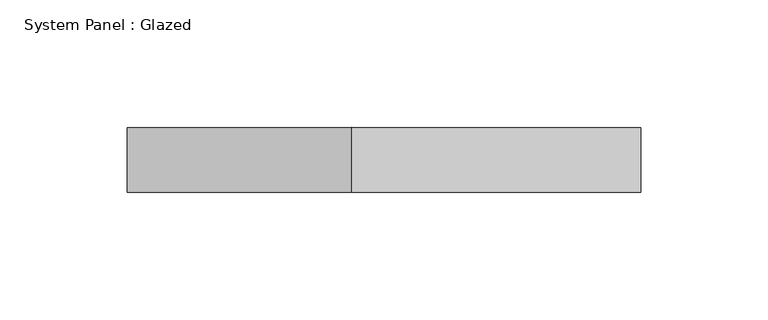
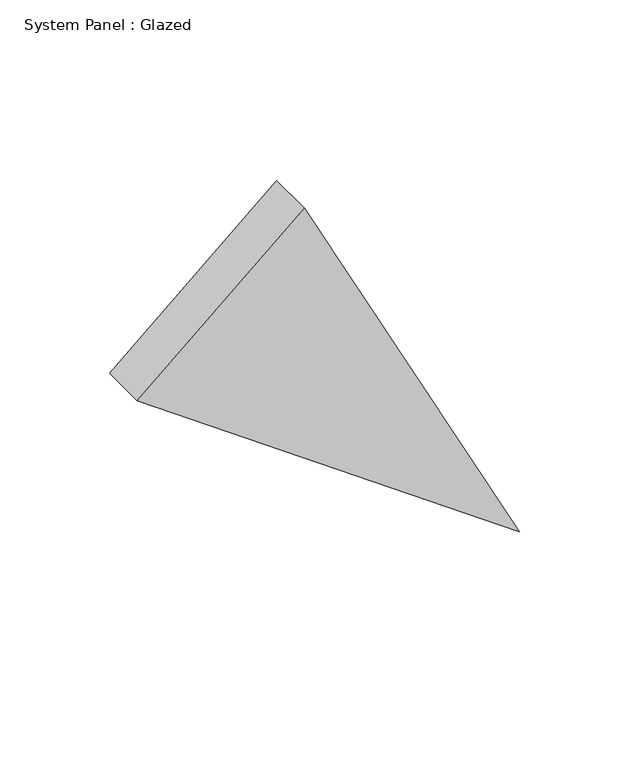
"""IFC4 building model written with IfcOpenShell, lengths in millimetres: plate geometry, System Panel : Glazed."""

import ifcopenshell
import ifcopenshell.guid

model = None  # the IFC model being written
_history = None  # IfcOwnerHistory: only IFC2X3 demands one
_inside = {}  # id of a spatial element -> (the spatial element, [elements in it])
_under = {}  # id of a project, library or spatial element -> (it, [spatial elements below it])
_declared = {}  # id of a project -> (the project, [libraries it declares])
_typed = {}  # id of a type object -> (the type object, [elements of that type])
_made_of = {}  # id of a material, layer set ... -> (it, [elements and type objects made of it])


def new_model(schema):
    """Start an empty IFC model of exactly this schema.

    Asked for "IFC4X3", IfcOpenShell would pick the latest addendum, in which some entities
    have other attributes; the version numbers below select the first issue.
    IFC2X3 requires an IfcOwnerHistory on every rooted entity: one is made here for all.
    """
    global model, _history
    if schema == "IFC4X3":
        model = ifcopenshell.file(schema_version=(4, 3, 0, 0))
    else:
        model = ifcopenshell.file(schema=schema)
    _inside.clear()
    _under.clear()
    _declared.clear()
    _typed.clear()
    _made_of.clear()
    _history = None
    if model.schema == "IFC2X3":
        org = make("IfcOrganization", Name="unknown")
        user = make(
            "IfcPersonAndOrganization",
            ThePerson=make("IfcPerson", FamilyName="unknown"),
            TheOrganization=org,
        )
        app = make(
            "IfcApplication",
            ApplicationDeveloper=org,
            Version="unknown",
            ApplicationFullName="unknown",
            ApplicationIdentifier="unknown",
        )
        _history = make(
            "IfcOwnerHistory",
            OwningUser=user,
            OwningApplication=app,
            ChangeAction="ADDED",
            CreationDate=0,
        )
    return model


def make(cls, **values):
    """One entity of the class cls with the attributes given. An attribute that is None is left unset."""
    return model.create_entity(
        cls, **{name: value for name, value in values.items() if value is not None}
    )


def rooted(cls, **values):
    """An entity with a GlobalId (a new one), such as an element, a storey or a relation."""
    return make(cls, GlobalId=ifcopenshell.guid.new(), OwnerHistory=_history, **values)


def si_unit(unit_type, name, prefix=None):
    """IfcSIUnit, for example si_unit("LENGTHUNIT", "METRE", prefix="MILLI")."""
    return make("IfcSIUnit", UnitType=unit_type, Prefix=prefix, Name=name)


def assignment(units):
    """IfcUnitAssignment: the units of a project."""
    return None if units is None else make("IfcUnitAssignment", Units=units)


def point(xyz):
    """IfcCartesianPoint."""
    return None if xyz is None else make("IfcCartesianPoint", Coordinates=xyz)


def direction(xyz):
    """IfcDirection."""
    return None if xyz is None else make("IfcDirection", DirectionRatios=xyz)


def frame(location, z_axis=None, x_axis=None):
    """IfcAxis2Placement3D, a coordinate frame: its origin and axes. An axis left out is left unset."""
    return make(
        "IfcAxis2Placement3D",
        Location=point(location),
        Axis=direction(z_axis),
        RefDirection=direction(x_axis),
    )


def origin():
    """The frame at (0, 0, 0) with its axes left unset."""
    return frame((0.0, 0.0, 0.0))


def place(relative_to, where):
    """IfcLocalPlacement: puts the frame where relative to a parent placement (None: the world)."""
    return make(
        "IfcLocalPlacement", PlacementRelTo=relative_to, RelativePlacement=where
    )


def context(
    kind, dimensions, precision=None, world=None, true_north=None, identifier=None
):
    """IfcGeometricRepresentationContext, for example the 3D "Model" context."""
    return make(
        "IfcGeometricRepresentationContext",
        ContextIdentifier=identifier,
        ContextType=kind,
        CoordinateSpaceDimension=dimensions,
        Precision=precision,
        WorldCoordinateSystem=world,
        TrueNorth=true_north,
    )


def project(units=None, contexts=None):
    """IfcProject with its units and contexts."""
    return rooted(
        "IfcProject",
        Name="project",
        RepresentationContexts=contexts,
        UnitsInContext=assignment(units),
    )


def spatial(cls, under=None, at=None, **own):
    """A site, building, storey or space (cls), placed at a placement, below another one or the project."""
    s = rooted(cls, ObjectPlacement=at, **own)
    if under is not None:
        _under.setdefault(under.id(), (under, []))[1].append(s)
    return s


def polyline(points):
    """IfcPolyline through the points."""
    return make("IfcPolyline", Points=[point(p) for p in points])


def outline(outer, holes=None, kind="AREA"):
    """IfcArbitraryClosedProfileDef: a profile drawn as a closed curve; with holes, ...WithVoids."""
    if holes is None:
        return make("IfcArbitraryClosedProfileDef", ProfileType=kind, OuterCurve=outer)
    return make(
        "IfcArbitraryProfileDefWithVoids",
        ProfileType=kind,
        OuterCurve=outer,
        InnerCurves=holes,
    )


def extrude(swept, where, along, depth):
    """IfcExtrudedAreaSolid: the profile swept, set in the frame where, extruded along a direction by depth."""
    return make(
        "IfcExtrudedAreaSolid",
        SweptArea=swept,
        Position=where,
        ExtrudedDirection=direction(along),
        Depth=depth,
    )


def shape(context_of_items, identifier, shape_type, items):
    """IfcShapeRepresentation: the items that make up one representation, for example the "Body"."""
    return make(
        "IfcShapeRepresentation",
        ContextOfItems=context_of_items,
        RepresentationIdentifier=identifier,
        RepresentationType=shape_type,
        Items=items,
    )


def source(mapping_origin, context_of_items, identifier, shape_type, items):
    """IfcRepresentationMap: a shape defined once, which mapped items show again and again."""
    return make(
        "IfcRepresentationMap",
        MappingOrigin=mapping_origin,
        MappedRepresentation=shape(context_of_items, identifier, shape_type, items),
    )


def transform(
    local_origin,
    x_axis=None,
    y_axis=None,
    z_axis=None,
    scale=None,
    scale2=None,
    scale3=None,
    uniform=True,
):
    """IfcCartesianTransformationOperator3D, or its non-uniform kind. x_axis, y_axis, z_axis: its Axis1, 2, 3."""
    if uniform:
        return make(
            "IfcCartesianTransformationOperator3D",
            Axis1=direction(x_axis),
            Axis2=direction(y_axis),
            LocalOrigin=point(local_origin),
            Scale=scale,
            Axis3=direction(z_axis),
        )
    return make(
        "IfcCartesianTransformationOperator3DnonUniform",
        Axis1=direction(x_axis),
        Axis2=direction(y_axis),
        LocalOrigin=point(local_origin),
        Scale=scale,
        Axis3=direction(z_axis),
        Scale2=scale2,
        Scale3=scale3,
    )


def mapped(mapping_source, mapping_target):
    """IfcMappedItem: shows the shape of a source again, moved by a transform."""
    return make(
        "IfcMappedItem", MappingSource=mapping_source, MappingTarget=mapping_target
    )


def made_of(thing, what):
    """Note that an element or type object is made of a material, layer set ...; save() writes the relation."""
    if what is not None:
        _made_of.setdefault(what.id(), (what, []))[1].append(thing)
    return thing


def element(
    cls,
    number,
    at=None,
    inside=None,
    cuts=None,
    type_object=None,
    material=None,
    context=None,
    identifier="Body",
    shape_type=None,
    held_by="IfcProductDefinitionShape",
    body=None,
    shapes=None,
    **own,
):
    """One element of the class cls, such as IfcWall. Its Tag is "e" and its number.

    at: its placement. inside: the storey or other place that contains it. cuts: it is an
    opening in that element (IfcRelVoidsElement). A single representation is given by context,
    identifier, shape_type and body (its items); several are given by shapes. held_by: the class
    of the entity that holds the representations. save() writes the other relations.
    """
    e = rooted(cls, Tag="e%d" % number, ObjectPlacement=at, **own)
    if body is not None:
        shapes = [shape(context, identifier, shape_type, body)]
    if shapes is not None:
        e.Representation = make(held_by, Representations=shapes)
    if inside is not None:
        _inside.setdefault(inside.id(), (inside, []))[1].append(e)
    if cuts is not None:
        rooted(
            "IfcRelVoidsElement", RelatingBuildingElement=cuts, RelatedOpeningElement=e
        )
    if type_object is not None:
        _typed.setdefault(type_object.id(), (type_object, []))[1].append(e)
    return made_of(e, material)


def aggregate(whole, parts):
    """IfcRelAggregates: a whole, such as a stair, and the parts it consists of."""
    return rooted("IfcRelAggregates", RelatingObject=whole, RelatedObjects=parts)


def save(model, path):
    """Write the relations noted so far, then the file.

    IfcRelAggregates (storeys below a building ...), IfcRelContainedInSpatialStructure (elements
    in a storey), IfcRelDefinesByType, IfcRelAssociatesMaterial and IfcRelDeclares: one each for
    every whole, place, type object, material and project.
    """
    for whole, parts in _under.values():
        aggregate(whole, parts)
    for where, things in _inside.values():
        rooted(
            "IfcRelContainedInSpatialStructure",
            RelatedElements=things,
            RelatingStructure=where,
        )
    for kind, things in _typed.values():
        rooted("IfcRelDefinesByType", RelatedObjects=things, RelatingType=kind)
    for what, things in _made_of.values():
        rooted("IfcRelAssociatesMaterial", RelatedObjects=things, RelatingMaterial=what)
    for by, libraries in _declared.values():
        rooted("IfcRelDeclares", RelatingContext=by, RelatedDefinitions=libraries)
    model.write(path)


def system_panel_glazed_8f1ce6c8(model_context):
    return source(origin(), model_context, "Body", "SweptSolid", [
        extrude(outline(polyline([(143.4805418, -100.5975988), (0.0, 100.5975988), (219.6771406, -12.5753984), (143.4805418, -100.5975988)])), frame((0.0, -44.45, 0.0), z_axis=(0.0, 1.0, 0.0), x_axis=(0.0, 0.0, 1.0)), (0.0, 0.0, 1.0), 25.4),
    ])


if __name__ == "__main__":
    model = new_model("IFC4")
    model_context = context("Model", 3, world=origin())
    ifc_project = project(units=[si_unit("LENGTHUNIT", "METRE", prefix="MILLI")], contexts=[model_context])
    site = spatial("IfcSite", under=ifc_project)
    building = spatial("IfcBuilding", under=site)
    placement = place(None, origin())
    system_panel_glazed_shape = system_panel_glazed_8f1ce6c8(model_context)
    element("IfcPlate", 1, ObjectType="System Panel : Glazed", at=placement, inside=building, context=model_context, shape_type="MappedRepresentation", body=[
        mapped(system_panel_glazed_shape, transform((0.0, 0.0, 0.0), x_axis=(1.0, 0.0, 0.0), y_axis=(0.0, 1.0, 0.0), z_axis=(0.0, 0.0, 1.0))),
    ])
    save(model, "model.ifc")
